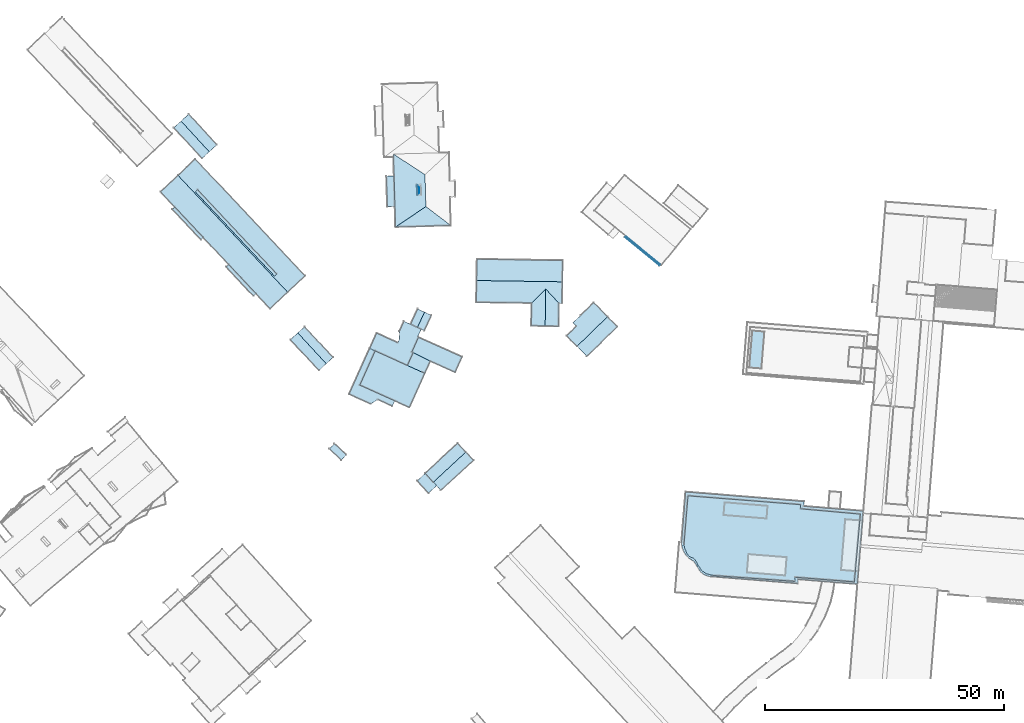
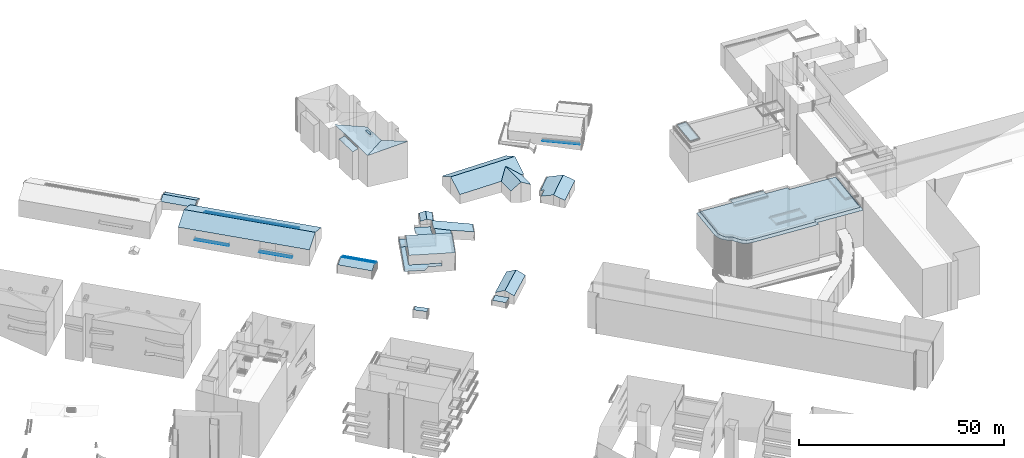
# Not in any storey, part 132 of 136: 68 roofs.
"""IFC4 building model written with IfcOpenShell, lengths in metres."""

from ifc_helpers import new_model, entity, si_unit, converted_unit, frame, origin, place, context, subcontext, project, spatial, face_set, surface_model, element, save


model = new_model("IFC4")

# Units and contexts
model_context = context("Model", 3, precision=1e-05, world=origin())
body_context = subcontext(model_context, "Body", "Model", "MODEL_VIEW")
ifc_project = project(units=[converted_unit("PLANEANGLEUNIT", "DEGREE", entity("IfcRatioMeasure", 0.0174532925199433), si_unit("PLANEANGLEUNIT", "RADIAN"), dimensions=[0, 0, 0, 0, 0, 0, 0]), si_unit("AREAUNIT", "SQUARE_METRE"), si_unit("LENGTHUNIT", "METRE")], contexts=[model_context])

# Site, building
site_placement = place(None, origin())
site = spatial("IfcSite", under=ifc_project, at=site_placement, Name="_site")
building_1_placement = place(site_placement, origin())
building_1 = spatial("IfcBuilding", under=site, at=building_1_placement, Name="_building")

# Roofs
for number, where, name in (
    (1, (0.0, 0.0, 0.0), "Roof"),
    (2, (0.0, 0.0, 0.0), "Roof"),
):
    element("IfcRoof", number, at=place(building_1_placement, frame(where)), inside=building_1, Name=name, PredefinedType="NOTDEFINED", context=body_context, shape_type="SurfaceModel", body=[
        surface_model("IfcFaceBasedSurfaceModel", [(119.99, 104.46, 45.55), (121.43, 103.79, 45.01), (122.92, 107.0, 45.01), (121.48, 107.67, 45.55)], [face_set([[[0, 1, 2, 3]]])]),
    ])
for number, where, name in (
    (3, (0.0, 0.0, 0.0), "Roof"),
    (4, (0.0, 0.0, 0.0), "Roof"),
):
    element("IfcRoof", number, at=place(building_1_placement, frame(where)), inside=building_1, Name=name, PredefinedType="NOTDEFINED", context=body_context, shape_type="SurfaceModel", body=[
        surface_model("IfcFaceBasedSurfaceModel", [(121.48, 107.67, 45.55), (120.06, 108.33, 45.01), (118.57, 105.12, 45.01), (119.99, 104.46, 45.55)], [face_set([[[0, 1, 2, 3]]])]),
    ])

# Building
building_2_placement = place(site_placement, origin())
building_2 = spatial("IfcBuilding", under=site, at=building_2_placement, Name="_building")

# Roofs
for number, where, name in (
    (5, (0.0, 0.0, 0.0), "Roof"),
    (6, (0.0, 0.0, 0.0), "Roof"),
):
    element("IfcRoof", number, at=place(building_2_placement, frame(where)), inside=building_2, Name=name, PredefinedType="NOTDEFINED", context=body_context, shape_type="SurfaceModel", body=[
        surface_model("IfcFaceBasedSurfaceModel", [(101.63, 79.12, 40.36), (104.11, 76.79, 40.36), (105.14, 77.88, 40.36), (102.67, 80.22, 40.36)], [face_set([[[0, 1, 2, 3]]])]),
    ])

# Building
building_3_placement = place(site_placement, origin())
building_3 = spatial("IfcBuilding", under=site, at=building_3_placement, Name="_building")

# Roofs
roof_1_placement = place(building_3_placement, origin())
element("IfcRoof", 7, at=roof_1_placement, inside=building_3, Name="Roof", PredefinedType="NOTDEFINED", context=body_context, shape_type="SurfaceModel", body=[
    surface_model("IfcFaceBasedSurfaceModel", [(115.42, 125.43, 53.37), (126.98, 125.76, 53.37), (121.77, 129.72, 53.1)], [face_set([[[0, 1, 2]]])]),
])
roof_2_placement = place(building_3_placement, origin())
element("IfcRoof", 8, at=roof_2_placement, inside=building_3, Name="Roof", PredefinedType="NOTDEFINED", context=body_context, shape_type="SurfaceModel", body=[
    surface_model("IfcFaceBasedSurfaceModel", [(121.58, 136.39, 53.1), (114.99, 140.68, 53.5), (115.0, 140.07, 53.5), (115.12, 136.14, 53.46), (115.3, 129.75, 53.41), (115.42, 125.43, 53.37), (121.77, 129.72, 53.1)], [face_set([[[0, 1, 2, 3, 4, 5, 6]]])]),
])
roof_3_placement = place(building_3_placement, origin())
element("IfcRoof", 9, at=roof_3_placement, inside=building_3, Name="Roof", PredefinedType="NOTDEFINED", context=body_context, shape_type="SurfaceModel", body=[
    surface_model("IfcFaceBasedSurfaceModel", [(115.3, 129.75, 52.85), (115.12, 136.14, 52.85), (113.53, 136.09, 52.47), (113.71, 129.71, 52.47)], [face_set([[[0, 1, 2, 3]]])]),
])
roof_4_placement = place(building_3_placement, origin())
element("IfcRoof", 10, at=roof_4_placement, inside=building_3, Name="Roof", PredefinedType="NOTDEFINED", context=body_context, shape_type="SurfaceModel", body=[
    surface_model("IfcFaceBasedSurfaceModel", [(121.58, 136.39, 53.1), (114.99, 140.68, 53.5), (115.0, 140.07, 53.5), (115.12, 136.14, 53.46), (115.3, 129.75, 53.41), (115.42, 125.43, 53.37), (121.77, 129.72, 53.1)], [face_set([[[0, 1, 2, 3, 4, 5, 6]]])]),
])
for number, where, name in (
    (11, (0.0, 0.0, 0.0), "Roof"),
    (12, (0.0, 0.0, 0.0), "Roof"),
):
    element("IfcRoof", number, at=place(building_3_placement, frame(where)), inside=building_3, Name=name, PredefinedType="NOTDEFINED", context=body_context, shape_type="SurfaceModel", body=[
        surface_model("IfcFaceBasedSurfaceModel", [(119.89, 134.271, 53.87), (119.96, 132.05, 53.87), (120.37, 132.41, 54.14), (120.32, 134.01, 54.14)], [face_set([[[0, 1, 2, 3]]])]),
    ])
roof_5_placement = place(building_3_placement, origin())
element("IfcRoof", 13, at=roof_5_placement, inside=building_3, Name="Roof", PredefinedType="NOTDEFINED", context=body_context, shape_type="SurfaceModel", body=[
    surface_model("IfcFaceBasedSurfaceModel", [(115.3, 129.75, 52.85), (115.12, 136.14, 52.85), (113.53, 136.09, 52.47), (113.71, 129.71, 52.47)], [face_set([[[0, 1, 2, 3]]])]),
])
roof_6_placement = place(building_3_placement, origin())
element("IfcRoof", 14, at=roof_6_placement, inside=building_3, Name="Roof", PredefinedType="NOTDEFINED", context=body_context, shape_type="SurfaceModel", body=[
    surface_model("IfcFaceBasedSurfaceModel", [(115.42, 125.43, 53.37), (126.98, 125.76, 53.37), (121.77, 129.72, 53.1)], [face_set([[[0, 1, 2]]])]),
])

# Building
building_4_placement = place(site_placement, origin())
building_4 = spatial("IfcBuilding", under=site, at=building_4_placement, Name="_building")

# Roofs
for number, where, name in (
    (15, (0.0, 0.0, 0.0), "Roof"),
    (16, (0.0, 0.0, 0.0), "Roof"),
):
    element("IfcRoof", number, at=place(building_4_placement, frame(where)), inside=building_4, Name=name, PredefinedType="NOTDEFINED", context=body_context, shape_type="SurfaceModel", body=[
        surface_model("IfcFaceBasedSurfaceModel", [(170.69, 117.64, 42.22), (163.5, 123.53, 42.22), (163.3, 123.28, 42.22), (170.49, 117.39, 42.22)], [face_set([[[0, 1, 2, 3]]])]),
    ])

# Building
building_5_placement = place(site_placement, origin())
building_5 = spatial("IfcBuilding", under=site, at=building_5_placement, Name="_building")

# Roofs
for number, where, name in (
    (17, (0.0, 0.0, 0.0), "Roof"),
    (18, (0.0, 0.0, 0.0), "Roof"),
):
    element("IfcRoof", number, at=place(building_5_placement, frame(where)), inside=building_5, Name=name, PredefinedType="NOTDEFINED", context=body_context, shape_type="SurfaceModel", body=[
        surface_model("IfcFaceBasedSurfaceModel", [(130.11, 78.46, 42.75), (128.41, 80.3, 41.61), (121.62, 74.0, 41.61), (123.32, 72.17, 42.75)], [face_set([[[0, 1, 2, 3]]])]),
    ])
for number, where, name in (
    (19, (0.0, 0.0, 0.0), "Roof"),
    (20, (0.0, 0.0, 0.0), "Roof"),
):
    element("IfcRoof", number, at=place(building_5_placement, frame(where)), inside=building_5, Name=name, PredefinedType="NOTDEFINED", context=body_context, shape_type="SurfaceModel", body=[
        surface_model("IfcFaceBasedSurfaceModel", [(123.32, 72.17, 42.75), (124.01, 71.43, 42.26), (124.91, 70.45, 41.61), (131.71, 76.74, 41.61), (130.11, 78.46, 42.75)], [face_set([[[0, 1, 2, 3, 4]]])]),
    ])
for number, where, name in (
    (21, (0.0, 0.0, 0.0), "Roof"),
    (22, (0.0, 0.0, 0.0), "Roof"),
):
    element("IfcRoof", number, at=place(building_5_placement, frame(where)), inside=building_5, Name=name, PredefinedType="NOTDEFINED", context=body_context, shape_type="SurfaceModel", body=[
        surface_model("IfcFaceBasedSurfaceModel", [(124.01, 71.43, 40.82), (123.32, 72.17, 40.82), (121.62, 74.0, 40.82), (119.97, 72.47, 40.82), (122.35, 69.89, 40.82)], [face_set([[[0, 1, 2, 3, 4]]])]),
    ])

# Building
building_6_placement = place(site_placement, origin())
building_6 = spatial("IfcBuilding", under=site, at=building_6_placement, Name="_building")

# Roofs
roof_7_placement = place(building_6_placement, origin())
element("IfcRoof", 23, at=roof_7_placement, inside=building_6, Name="Roof", PredefinedType="NOTDEFINED", context=body_context, shape_type="SurfaceModel", body=[
    surface_model("IfcFaceBasedSurfaceModel", [(117.9, 96.53, 46.36), (121.54, 94.89, 45.57), (122.68, 97.43, 45.56), (119.11, 99.22, 46.31)], [face_set([[[0, 1, 2, 3]]])]),
])
roof_8_placement = place(building_6_placement, origin())
element("IfcRoof", 24, at=roof_8_placement, inside=building_6, Name="Roof", PredefinedType="NOTDEFINED", context=body_context, shape_type="SurfaceModel", body=[
    surface_model("IfcFaceBasedSurfaceModel", [(107.97, 92.43, 43.45), (111.18, 99.561, 43.45), (110.03, 100.08, 43.45), (105.72, 90.54, 43.45), (110.26, 88.5, 43.45), (111.71, 89.42, 43.45), (114.75, 88.05, 43.45), (115.25, 89.15, 43.45)], [face_set([[[0, 1, 2, 3, 4, 5, 6, 7]]])]),
])
for number, where, name in (
    (25, (0.0, 0.0, 0.0), "Roof"),
    (26, (0.0, 0.0, 0.0), "Roof"),
):
    element("IfcRoof", number, at=place(building_6_placement, frame(where)), inside=building_6, Name=name, PredefinedType="NOTDEFINED", context=body_context, shape_type="SurfaceModel", body=[
        surface_model("IfcFaceBasedSurfaceModel", [(121.54, 94.89, 46.77), (117.9, 96.53, 46.77), (111.18, 99.561, 46.77), (107.97, 92.43, 46.3), (118.32, 87.76, 46.3)], [face_set([[[0, 1, 2, 3, 4]]])]),
    ])
for number, where, name in (
    (27, (0.0, 0.0, 0.0), "Roof"),
    (28, (0.0, 0.0, 0.0), "Roof"),
):
    element("IfcRoof", number, at=place(building_6_placement, frame(where)), inside=building_6, Name=name, PredefinedType="NOTDEFINED", context=body_context, shape_type="SurfaceModel", body=[
        surface_model("IfcFaceBasedSurfaceModel", [(117.9, 96.53, 43.29), (119.11, 99.22, 43.29), (118.84, 99.34, 43.29), (120.22, 102.41, 43.29), (120.05, 102.49, 43.29), (120.78, 104.09, 43.29), (118.57, 105.12, 43.29), (117.18, 105.75, 43.29), (116.23, 103.64, 43.29), (116.26, 103.19, 43.29), (116.24, 102.03, 43.29), (115.9, 101.28, 43.29), (111.47, 103.28, 43.29), (110.03, 100.08, 43.29), (111.18, 99.561, 43.29)], [face_set([[[0, 1, 2, 3, 4, 5, 6, 7, 8, 9, 10, 11, 12, 13, 14]]])]),
    ])
roof_9_placement = place(building_6_placement, origin())
element("IfcRoof", 29, at=roof_9_placement, inside=building_6, Name="Roof", PredefinedType="NOTDEFINED", context=body_context, shape_type="SurfaceModel", body=[
    surface_model("IfcFaceBasedSurfaceModel", [(117.9, 96.53, 46.36), (121.54, 94.89, 45.57), (122.68, 97.43, 45.56), (119.11, 99.22, 46.31)], [face_set([[[0, 1, 2, 3]]])]),
])
roof_10_placement = place(building_6_placement, origin())
element("IfcRoof", 30, at=roof_10_placement, inside=building_6, Name="Roof", PredefinedType="NOTDEFINED", context=body_context, shape_type="SurfaceModel", body=[
    surface_model("IfcFaceBasedSurfaceModel", [(107.97, 92.43, 43.45), (111.18, 99.561, 43.45), (110.03, 100.08, 43.45), (105.72, 90.54, 43.45), (110.26, 88.5, 43.45), (111.71, 89.42, 43.45), (114.75, 88.05, 43.45), (115.25, 89.15, 43.45)], [face_set([[[0, 1, 2, 3, 4, 5, 6, 7]]])]),
])

# Building
building_7_placement = place(site_placement, origin())
building_7 = spatial("IfcBuilding", under=site, at=building_7_placement, Name="_building")

# Roofs
roof_11_placement = place(building_7_placement, origin())
element("IfcRoof", 31, at=roof_11_placement, inside=building_7, Name="Roof", PredefinedType="NOTDEFINED", context=body_context, shape_type="SurfaceModel", body=[
    surface_model("IfcFaceBasedSurfaceModel", [(74.12, 133.24, 46.56), (73.64, 132.78, 46.55), (90.14, 115.2, 46.55), (90.63, 115.65, 46.56)], [face_set([[[0, 1, 2, 3]]])]),
])
roof_12_placement = place(building_7_placement, origin())
element("IfcRoof", 32, at=roof_12_placement, inside=building_7, Name="Roof", PredefinedType="NOTDEFINED", context=body_context, shape_type="SurfaceModel", body=[
    surface_model("IfcFaceBasedSurfaceModel", [(80.59, 117.64, 41.99), (80.06, 117.14, 41.99), (85.77, 111.05, 41.99), (86.3, 111.55, 41.99)], [face_set([[[0, 1, 2, 3]]])]),
])
roof_13_placement = place(building_7_placement, origin())
element("IfcRoof", 33, at=roof_13_placement, inside=building_7, Name="Roof", PredefinedType="NOTDEFINED", context=body_context, shape_type="SurfaceModel", body=[
    surface_model("IfcFaceBasedSurfaceModel", [(70.01, 136.22, 46.66), (66.36, 132.8, 44.78), (80.59, 117.64, 44.78), (83.34, 114.71, 44.78), (89.24, 108.43, 44.78), (92.88, 111.851, 46.66)], [face_set([[[0, 1, 2, 3, 4, 5]]])]),
])
roof_14_placement = place(building_7_placement, origin())
element("IfcRoof", 34, at=roof_14_placement, inside=building_7, Name="Roof", PredefinedType="NOTDEFINED", context=body_context, shape_type="SurfaceModel", body=[
    surface_model("IfcFaceBasedSurfaceModel", [(69.33, 129.64, 42.25), (68.85, 129.19, 42.25), (74.81, 122.83, 42.25), (75.3, 123.28, 42.25)], [face_set([[[0, 1, 2, 3]]])]),
])
roof_15_placement = place(building_7_placement, origin())
element("IfcRoof", 35, at=roof_15_placement, inside=building_7, Name="Roof", PredefinedType="NOTDEFINED", context=body_context, shape_type="SurfaceModel", body=[
    surface_model("IfcFaceBasedSurfaceModel", [(80.59, 117.64, 41.99), (80.06, 117.14, 41.99), (85.77, 111.05, 41.99), (86.3, 111.55, 41.99)], [face_set([[[0, 1, 2, 3]]])]),
])
roof_16_placement = place(building_7_placement, origin())
element("IfcRoof", 36, at=roof_16_placement, inside=building_7, Name="Roof", PredefinedType="NOTDEFINED", context=body_context, shape_type="SurfaceModel", body=[
    surface_model("IfcFaceBasedSurfaceModel", [(69.33, 129.64, 42.25), (68.85, 129.19, 42.25), (74.81, 122.83, 42.25), (75.3, 123.28, 42.25)], [face_set([[[0, 1, 2, 3]]])]),
])
roof_17_placement = place(building_7_placement, origin())
element("IfcRoof", 37, at=roof_17_placement, inside=building_7, Name="Roof", PredefinedType="NOTDEFINED", context=body_context, shape_type="SurfaceModel", body=[
    surface_model("IfcFaceBasedSurfaceModel", [(92.88, 111.851, 46.66), (96.52, 115.26, 44.78), (73.64, 139.64, 44.78), (70.01, 136.22, 46.66)], [face_set([[[0, 1, 2, 3]]])]),
])
roof_18_placement = place(building_7_placement, origin())
element("IfcRoof", 38, at=roof_18_placement, inside=building_7, Name="Roof", PredefinedType="NOTDEFINED", context=body_context, shape_type="SurfaceModel", body=[
    surface_model("IfcFaceBasedSurfaceModel", [(70.01, 136.22, 46.66), (66.36, 132.8, 44.78), (80.59, 117.64, 44.78), (83.34, 114.71, 44.78), (89.24, 108.43, 44.78), (92.88, 111.851, 46.66)], [face_set([[[0, 1, 2, 3, 4, 5]]])]),
])
roof_19_placement = place(building_7_placement, origin())
element("IfcRoof", 39, at=roof_19_placement, inside=building_7, Name="Roof", PredefinedType="NOTDEFINED", context=body_context, shape_type="SurfaceModel", body=[
    surface_model("IfcFaceBasedSurfaceModel", [(74.12, 133.24, 46.56), (73.64, 132.78, 46.55), (90.14, 115.2, 46.55), (90.63, 115.65, 46.56)], [face_set([[[0, 1, 2, 3]]])]),
])
roof_20_placement = place(building_7_placement, origin())
element("IfcRoof", 40, at=roof_20_placement, inside=building_7, Name="Roof", PredefinedType="NOTDEFINED", context=body_context, shape_type="SurfaceModel", body=[
    surface_model("IfcFaceBasedSurfaceModel", [(92.88, 111.851, 46.66), (96.52, 115.26, 44.78), (73.64, 139.64, 44.78), (70.01, 136.22, 46.66)], [face_set([[[0, 1, 2, 3]]])]),
])

# Building
building_8_placement = place(site_placement, origin())
building_8 = spatial("IfcBuilding", under=site, at=building_8_placement, Name="_building")

# Roofs
for number, where, name in (
    (41, (0.0, 0.0, 0.0), "Roof"),
    (42, (0.0, 0.0, 0.0), "Roof"),
):
    element("IfcRoof", number, at=place(building_8_placement, frame(where)), inside=building_8, Name=name, PredefinedType="NOTDEFINED", context=body_context, shape_type="SurfaceModel", body=[
        surface_model("IfcFaceBasedSurfaceModel", [(153.33, 100.54, 43.45), (154.44, 99.4, 42.87), (155.39, 98.42, 42.37), (158.33, 101.28, 42.37), (161.76, 104.62, 42.37), (159.7, 106.73, 43.45)], [face_set([[[0, 1, 2, 3, 4, 5]]])]),
    ])
for number, where, name in (
    (43, (0.0, 0.0, 0.0), "Roof"),
    (44, (0.0, 0.0, 0.0), "Roof"),
):
    element("IfcRoof", number, at=place(building_8_placement, frame(where)), inside=building_8, Name=name, PredefinedType="NOTDEFINED", context=body_context, shape_type="SurfaceModel", body=[
        surface_model("IfcFaceBasedSurfaceModel", [(159.7, 106.73, 43.45), (156.84, 109.67, 42.08), (154.12, 107.03, 42.08), (152.48, 105.43, 42.08), (153.19, 104.7, 42.5), (151.18, 102.75, 42.5), (153.33, 100.54, 43.45)], [face_set([[[0, 1, 2, 3, 4, 5, 6]]])]),
    ])

# Building
building_9_placement = place(site_placement, origin())
building_9 = spatial("IfcBuilding", under=site, at=building_9_placement, Name="_building")

# Roofs
for number, where, name in (
    (45, (0.0, 0.0, 0.0), "Roof"),
    (46, (0.0, 0.0, 0.0), "Roof"),
):
    element("IfcRoof", number, at=place(building_9_placement, frame(where)), inside=building_9, Name=name, PredefinedType="NOTDEFINED", context=body_context, shape_type="SurfaceModel", body=[
        surface_model("IfcFaceBasedSurfaceModel", [(100.96, 96.9, 43.57), (102.38, 98.22, 42.77), (96.43, 104.65, 42.77), (95.01, 103.34, 43.57)], [face_set([[[0, 1, 2, 3]]])]),
    ])
for number, where, name in (
    (47, (0.0, 0.0, 0.0), "Roof"),
    (48, (0.0, 0.0, 0.0), "Roof"),
):
    element("IfcRoof", number, at=place(building_9_placement, frame(where)), inside=building_9, Name=name, PredefinedType="NOTDEFINED", context=body_context, shape_type="SurfaceModel", body=[
        surface_model("IfcFaceBasedSurfaceModel", [(95.01, 103.34, 43.57), (93.5, 101.94, 42.77), (99.45, 95.51, 42.77), (100.96, 96.9, 43.57)], [face_set([[[0, 1, 2, 3]]])]),
    ])

# Building
building_10_placement = place(site_placement, origin())
building_10 = spatial("IfcBuilding", under=site, at=building_10_placement, Name="_building")

# Roofs
roof_21_placement = place(building_10_placement, origin())
element("IfcRoof", 49, at=roof_21_placement, inside=building_10, Name="Roof", PredefinedType="NOTDEFINED", context=body_context, shape_type="SurfaceModel", body=[
    surface_model("IfcFaceBasedSurfaceModel", [(70.64, 147.57, 44.16), (69.16, 146.21, 43.3), (75.04, 139.79, 43.3), (76.53, 141.15, 44.16)], [face_set([[[0, 1, 2, 3]]])]),
])
for number, where, name in (
    (50, (0.0, 0.0, 0.0), "Roof"),
    (51, (0.0, 0.0, 0.0), "Roof"),
):
    element("IfcRoof", number, at=place(building_10_placement, frame(where)), inside=building_10, Name=name, PredefinedType="NOTDEFINED", context=body_context, shape_type="SurfaceModel", body=[
        surface_model("IfcFaceBasedSurfaceModel", [(76.53, 141.15, 44.16), (78.13, 142.62, 43.3), (72.25, 149.04, 43.3), (70.64, 147.57, 44.16)], [face_set([[[0, 1, 2, 3]]])]),
    ])
roof_22_placement = place(building_10_placement, origin())
element("IfcRoof", 52, at=roof_22_placement, inside=building_10, Name="Roof", PredefinedType="NOTDEFINED", context=body_context, shape_type="SurfaceModel", body=[
    surface_model("IfcFaceBasedSurfaceModel", [(70.64, 147.57, 44.16), (69.16, 146.21, 43.3), (75.04, 139.79, 43.3), (76.53, 141.15, 44.16)], [face_set([[[0, 1, 2, 3]]])]),
])

# Building
building_11_placement = place(site_placement, origin())
building_11 = spatial("IfcBuilding", under=site, at=building_11_placement, Name="_building")

# Roofs
for number, where, name in (
    (53, (0.0, 0.0, 0.0), "Roof"),
    (54, (0.0, 0.0, 0.0), "Roof"),
):
    element("IfcRoof", number, at=place(building_11_placement, frame(where)), inside=building_11, Name=name, PredefinedType="NOTDEFINED", context=body_context, shape_type="SurfaceModel", body=[
        surface_model("IfcFaceBasedSurfaceModel", [(146.67, 104.75, 47.07), (149.48, 104.71, 45.35), (149.55, 109.53, 45.35), (146.78, 112.51, 47.07)], [face_set([[[0, 1, 2, 3]]])]),
    ])
roof_23_placement = place(building_11_placement, origin())
element("IfcRoof", 55, at=roof_23_placement, inside=building_11, Name="Roof", PredefinedType="NOTDEFINED", context=body_context, shape_type="SurfaceModel", body=[
    surface_model("IfcFaceBasedSurfaceModel", [(146.78, 112.51, 47.07), (149.55, 109.53, 45.35), (150.19, 109.521, 45.35), (150.26, 114.0, 47.87), (132.37, 114.271, 47.87), (132.3, 109.73, 45.35), (143.87, 109.55, 45.35)], [face_set([[[0, 1, 2, 3, 4, 5, 6]]])]),
])
roof_24_placement = place(building_11_placement, origin())
element("IfcRoof", 56, at=roof_24_placement, inside=building_11, Name="Roof", PredefinedType="NOTDEFINED", context=body_context, shape_type="SurfaceModel", body=[
    surface_model("IfcFaceBasedSurfaceModel", [(143.87, 109.55, 45.35), (143.79, 104.8, 45.35), (146.67, 104.75, 47.07), (146.78, 112.51, 47.07)], [face_set([[[0, 1, 2, 3]]])]),
])
roof_25_placement = place(building_11_placement, origin())
element("IfcRoof", 57, at=roof_25_placement, inside=building_11, Name="Roof", PredefinedType="NOTDEFINED", context=body_context, shape_type="SurfaceModel", body=[
    surface_model("IfcFaceBasedSurfaceModel", [(146.78, 112.51, 47.07), (149.55, 109.53, 45.35), (150.19, 109.521, 45.35), (150.26, 114.0, 47.87), (132.37, 114.271, 47.87), (132.3, 109.73, 45.35), (143.87, 109.55, 45.35)], [face_set([[[0, 1, 2, 3, 4, 5, 6]]])]),
])
for number, where, name in (
    (58, (0.0, 0.0, 0.0), "Roof"),
    (59, (0.0, 0.0, 0.0), "Roof"),
):
    element("IfcRoof", number, at=place(building_11_placement, frame(where)), inside=building_11, Name=name, PredefinedType="NOTDEFINED", context=body_context, shape_type="SurfaceModel", body=[
        surface_model("IfcFaceBasedSurfaceModel", [(150.26, 114.0, 47.87), (150.32, 118.46, 45.35), (132.44, 118.73, 45.35), (132.37, 114.271, 47.87)], [face_set([[[0, 1, 2, 3]]])]),
    ])
roof_26_placement = place(building_11_placement, origin())
element("IfcRoof", 60, at=roof_26_placement, inside=building_11, Name="Roof", PredefinedType="NOTDEFINED", context=body_context, shape_type="SurfaceModel", body=[
    surface_model("IfcFaceBasedSurfaceModel", [(143.87, 109.55, 45.35), (143.79, 104.8, 45.35), (146.67, 104.75, 47.07), (146.78, 112.51, 47.07)], [face_set([[[0, 1, 2, 3]]])]),
])

# Building
building_12_placement = place(site_placement, origin())
building_12 = spatial("IfcBuilding", under=site, at=building_12_placement, Name="_building")

# Roofs
for number, where, name in (
    (61, (0.0, 0.0, 0.0), "Roof"),
    (62, (0.0, 0.0, 0.0), "Roof"),
):
    element("IfcRoof", number, at=place(building_12_placement, frame(where)), inside=building_12, Name=name, PredefinedType="NOTDEFINED", context=body_context, shape_type="SurfaceModel", body=[
        surface_model("IfcFaceBasedSurfaceModel", [(119.11, 99.22, 46.31), (122.68, 97.43, 45.56), (127.87, 95.09, 44.71), (129.32, 98.311, 44.58), (120.22, 102.41, 46.36), (118.84, 99.34, 46.36)], [face_set([[[0, 1, 2, 3, 4, 5]]])]),
    ])

# Building
building_13_placement = place(site_placement, origin())
building_13 = spatial("IfcBuilding", under=site, at=building_13_placement, Name="_building")

# Roofs
for number, where, name in (
    (63, (0.0, 0.0, 0.0), "Roof"),
    (64, (0.0, 0.0, 0.0), "Roof"),
):
    element("IfcRoof", number, at=place(building_13_placement, frame(where)), inside=building_13, Name=name, PredefinedType="NOTDEFINED", context=body_context, shape_type="SurfaceModel", body=[
        surface_model("IfcFaceBasedSurfaceModel", [(204.54, 51.45, 48.6), (207.13, 51.24, 48.6), (211.89, 50.86, 48.6), (211.93, 51.34, 48.6), (212.511, 58.53, 48.6), (212.56, 59.12, 48.6), (213.09, 65.66, 48.6), (213.13, 66.13, 48.6), (208.25, 66.53, 48.6), (205.82, 66.72, 48.6), (200.69, 67.14, 48.6), (200.77, 68.13, 48.6), (176.0, 70.13, 48.6), (175.15, 59.601, 48.6), (175.17, 59.23, 48.6), (175.22, 58.86, 48.6), (175.31, 58.5, 48.6), (175.42, 58.14, 48.6), (175.57, 57.8, 48.6), (175.74, 57.46, 48.6), (175.94, 57.15, 48.6), (176.17, 56.851, 48.6), (176.42, 56.58, 48.6), (176.7, 56.32, 48.6), (177.0, 56.09, 48.6), (177.31, 55.89, 48.6), (177.64, 55.72, 48.6), (177.7, 55.69, 48.6), (178.51, 54.45, 48.6), (178.64, 54.16, 48.6), (178.81, 53.88, 48.6), (179.0, 53.62, 48.6), (179.21, 53.39, 48.6), (179.45, 53.17, 48.6), (179.7, 52.98, 48.6), (179.98, 52.82, 48.6), (180.27, 52.68, 48.6), (180.57, 52.58, 48.6), (180.88, 52.5, 48.6), (181.2, 52.46, 48.6), (181.37, 52.45, 48.6), (199.41, 50.99, 48.6), (199.48, 51.86, 48.6)], [face_set([[[0, 1, 2, 3, 4, 5, 6, 7, 8, 9, 10, 11, 12, 13, 14, 15, 16, 17, 18, 19, 20, 21, 22, 23, 24, 25, 26, 27, 28, 29, 30, 31, 32, 33, 34, 35, 36, 37, 38, 39, 40, 41, 42]]])]),
    ])
roof_27_placement = place(building_13_placement, origin())
element("IfcRoof", 65, at=roof_27_placement, inside=building_13, Name="Roof", PredefinedType="NOTDEFINED", context=body_context, shape_type="SurfaceModel", body=[
    surface_model("IfcFaceBasedSurfaceModel", [(183.95, 65.26, 51.06), (192.93, 64.53, 51.06), (193.14, 67.18, 51.06), (184.17, 67.91, 51.06)], [face_set([[[0, 1, 2, 3]]])]),
])
roof_28_placement = place(building_13_placement, origin())
element("IfcRoof", 66, at=roof_28_placement, inside=building_13, Name="Roof", PredefinedType="NOTDEFINED", context=body_context, shape_type="SurfaceModel", body=[
    surface_model("IfcFaceBasedSurfaceModel", [(176.5, 69.32, 49.344), (175.67, 59.23, 49.344), (175.77, 58.44, 49.344), (176.25, 57.351, 49.344), (176.63, 56.74, 49.344), (177.11, 56.51, 49.344), (177.56, 56.32, 49.344), (177.88, 56.09, 49.344), (178.14, 55.71, 49.344), (178.7, 54.69, 49.344), (179.34, 53.71, 49.344), (180.29, 53.05, 49.344), (181.87, 52.67, 49.344), (198.79, 51.45, 49.344), (198.9, 52.311, 49.344), (211.25, 51.34, 49.344), (212.49, 65.49, 49.344), (200.04, 66.601, 49.344), (200.04, 67.47, 49.344)], [face_set([[[0, 1, 2, 3, 4, 5, 6, 7, 8, 9, 10, 11, 12, 13, 14, 15, 16, 17, 18]]])]),
])
roof_29_placement = place(building_13_placement, origin())
element("IfcRoof", 67, at=roof_29_placement, inside=building_13, Name="Roof", PredefinedType="NOTDEFINED", context=body_context, shape_type="SurfaceModel", body=[
    surface_model("IfcFaceBasedSurfaceModel", [(192.48, 103.57, 49.68), (189.95, 103.78, 49.55), (189.31, 96.061, 49.55), (191.85, 95.86, 49.68)], [face_set([[[0, 1, 2, 3]]])]),
])
roof_30_placement = place(building_13_placement, origin())
element("IfcRoof", 68, at=roof_30_placement, inside=building_13, Name="Roof", PredefinedType="NOTDEFINED", context=body_context, shape_type="SurfaceModel", body=[
    surface_model("IfcFaceBasedSurfaceModel", [(176.5, 69.32, 49.344), (175.67, 59.23, 49.344), (175.77, 58.44, 49.344), (176.25, 57.351, 49.344), (176.63, 56.74, 49.344), (177.11, 56.51, 49.344), (177.56, 56.32, 49.344), (177.88, 56.09, 49.344), (178.14, 55.71, 49.344), (178.7, 54.69, 49.344), (179.34, 53.71, 49.344), (180.29, 53.05, 49.344), (181.87, 52.67, 49.344), (198.79, 51.45, 49.344), (198.9, 52.311, 49.344), (211.25, 51.34, 49.344), (212.49, 65.49, 49.344), (200.04, 66.601, 49.344), (200.04, 67.47, 49.344)], [face_set([[[0, 1, 2, 3, 4, 5, 6, 7, 8, 9, 10, 11, 12, 13, 14, 15, 16, 17, 18]]])]),
])

save(model, "model.ifc")
